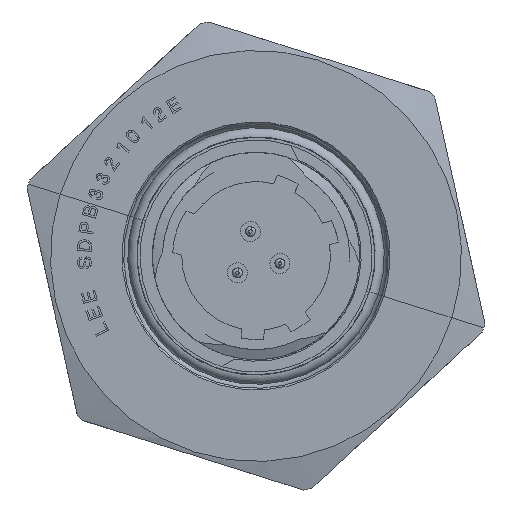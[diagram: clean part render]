
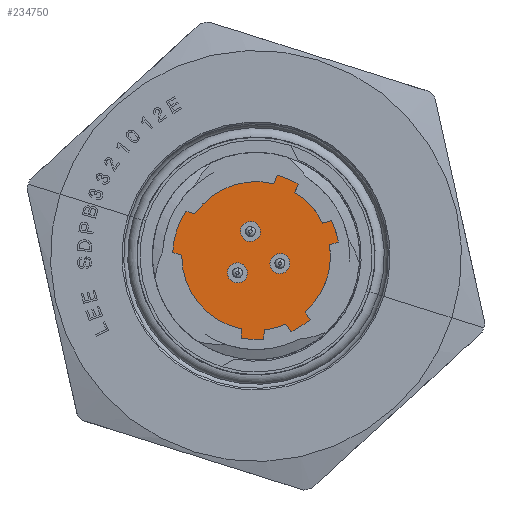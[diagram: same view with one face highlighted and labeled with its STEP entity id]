
A CAD part, left-side view. The second image highlights one B-rep face of the part: STEP entity #234750.
In plain terms, the highlighted planar face has unit normal (-1, 0, 0).
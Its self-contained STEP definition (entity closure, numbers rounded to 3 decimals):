
#215690=CARTESIAN_POINT('',(-42.03,0.965,
2.413));
#215700=VERTEX_POINT('',#215690);
#215730=CARTESIAN_POINT('',(-42.03,0.965,1.651));
#215740=DIRECTION('',(-1.,0.,0.));
#215750=DIRECTION('',(0.,0.,1.));
#215760=AXIS2_PLACEMENT_3D('',#215730,#215740,#215750);
#215770=CIRCLE('',#215760,0.762);
#215780=CARTESIAN_POINT('',(-42.03,0.965,
0.889));
#215790=VERTEX_POINT('',#215780);
#215800=EDGE_CURVE('',#215790,#215700,#215770,.T.);
#229680=CARTESIAN_POINT('',(-42.03,0.,
0.));
#229690=DIRECTION('',(1.,0.,0.));
#229700=DIRECTION('',(0.,0.,1.));
#229710=AXIS2_PLACEMENT_3D('',#229680,#229690,#229700);
#229720=CIRCLE('',#229710,5.652);
#229730=CARTESIAN_POINT('',(-42.03,-0.611,
-5.618));
#229740=VERTEX_POINT('',#229730);
#229750=CARTESIAN_POINT('',(-42.031,5.405,-1.651));
#229760=VERTEX_POINT('',#229750);
#229770=EDGE_CURVE('',#229740,#229760,#229720,.T.);
#230000=CARTESIAN_POINT('',(-42.03,0.374,
5.639));
#230010=VERTEX_POINT('',#230000);
#230040=CARTESIAN_POINT('',(-42.031,5.405,
1.651));
#230050=VERTEX_POINT('',#230040);
#230060=EDGE_CURVE('',#230050,#230010,#229720,.T.);
#230220=CARTESIAN_POINT('',(-42.029,-4.079,
3.911));
#230230=VERTEX_POINT('',#230220);
#230260=CARTESIAN_POINT('',(-42.03,-1.347,
5.489));
#230270=VERTEX_POINT('',#230260);
#230280=EDGE_CURVE('',#230270,#230230,#229720,.T.);
#230390=CARTESIAN_POINT('',(-42.029,-5.07,
2.496));
#230400=VERTEX_POINT('',#230390);
#230410=CARTESIAN_POINT('',(-42.029,-4.833,
-2.928));
#230420=VERTEX_POINT('',#230410);
#230430=EDGE_CURVE('',#230400,#230420,#229720,.T.);
#230610=CARTESIAN_POINT('',(-42.029,-3.723,
-4.252));
#230620=VERTEX_POINT('',#230610);
#230630=CARTESIAN_POINT('',(-42.03,-2.279,
-5.171));
#230640=VERTEX_POINT('',#230630);
#230650=EDGE_CURVE('',#230620,#230640,#229720,.T.);
#230920=CARTESIAN_POINT('',(-42.03,-0.791,
-6.288));
#230930=VERTEX_POINT('',#230920);
#230960=CARTESIAN_POINT('',(-42.03,0.,
0.));
#230970=DIRECTION('',(-1.,0.,0.));
#230980=DIRECTION('',(0.,0.,1.));
#230990=AXIS2_PLACEMENT_3D('',#230960,#230970,#230980);
#231000=CIRCLE('',#230990,6.337);
#231010=CARTESIAN_POINT('',(-42.03,-2.459,
-5.841));
#231020=VERTEX_POINT('',#231010);
#231030=EDGE_CURVE('',#230930,#231020,#231000,.T.);
#231210=CARTESIAN_POINT('',(-42.03,-0.611,
-5.618));
#231220=DIRECTION('',(0.,-0.259,
-0.966));
#231230=VECTOR('',#231220,1.);
#231240=LINE('',#231210,#231230);
#231250=EDGE_CURVE('',#229740,#230930,#231240,.T.);
#231380=CARTESIAN_POINT('',(-42.03,-2.279,
-5.171));
#231390=DIRECTION('',(0.,-0.259,
-0.966));
#231400=VECTOR('',#231390,1.);
#231410=LINE('',#231380,#231400);
#231420=EDGE_CURVE('',#230640,#231020,#231410,.T.);
#231550=CARTESIAN_POINT('',(-42.029,-3.723,
-4.252));
#231560=DIRECTION('',(0.,-0.766,
-0.643));
#231570=VECTOR('',#231560,1.);
#231580=LINE('',#231550,#231570);
#231590=CARTESIAN_POINT('',(-42.029,-4.254,
-4.697));
#231600=VERTEX_POINT('',#231590);
#231610=EDGE_CURVE('',#230620,#231600,#231580,.T.);
#231790=CARTESIAN_POINT('',(-42.03,0.,
0.));
#231800=DIRECTION('',(-1.,0.,0.));
#231810=DIRECTION('',(0.,0.,1.));
#231820=AXIS2_PLACEMENT_3D('',#231790,#231800,#231810);
#231830=CIRCLE('',#231820,6.337);
#231840=CARTESIAN_POINT('',(-42.029,-5.364,
-3.374));
#231850=VERTEX_POINT('',#231840);
#231860=EDGE_CURVE('',#231600,#231850,#231830,.T.);
#232040=CARTESIAN_POINT('',(-42.029,-4.833,
-2.928));
#232050=DIRECTION('',(0.,-0.766,
-0.643));
#232060=VECTOR('',#232050,1.);
#232070=LINE('',#232040,#232060);
#232080=EDGE_CURVE('',#230420,#231850,#232070,.T.);
#232210=CARTESIAN_POINT('',(-42.029,-5.07,
2.496));
#232220=DIRECTION('',(0.,-0.819,
0.574));
#232230=VECTOR('',#232220,1.);
#232240=LINE('',#232210,#232230);
#232250=CARTESIAN_POINT('',(-42.029,-5.638,
2.894));
#232260=VERTEX_POINT('',#232250);
#232270=EDGE_CURVE('',#230400,#232260,#232240,.T.);
#232450=CARTESIAN_POINT('',(-42.03,0.,
0.));
#232460=DIRECTION('',(-1.,0.,0.));
#232470=DIRECTION('',(0.,0.,1.));
#232480=AXIS2_PLACEMENT_3D('',#232450,#232460,#232470);
#232490=CIRCLE('',#232480,6.337);
#232500=CARTESIAN_POINT('',(-42.029,-4.647,
4.308));
#232510=VERTEX_POINT('',#232500);
#232520=EDGE_CURVE('',#232260,#232510,#232490,.T.);
#232700=CARTESIAN_POINT('',(-42.029,-4.079,
3.911));
#232710=DIRECTION('',(0.,-0.819,
0.574));
#232720=VECTOR('',#232710,1.);
#232730=LINE('',#232700,#232720);
#232740=EDGE_CURVE('',#230230,#232510,#232730,.T.);
#232870=CARTESIAN_POINT('',(-42.03,-1.347,
5.489));
#232880=DIRECTION('',(0.,-0.087,
0.996));
#232890=VECTOR('',#232880,1.);
#232900=LINE('',#232870,#232890);
#232910=CARTESIAN_POINT('',(-42.03,-1.407,
6.179));
#232920=VERTEX_POINT('',#232910);
#232930=EDGE_CURVE('',#230270,#232920,#232900,.T.);
#233110=CARTESIAN_POINT('',(-42.03,0.,
0.));
#233120=DIRECTION('',(-1.,0.,0.));
#233130=DIRECTION('',(0.,0.,1.));
#233140=AXIS2_PLACEMENT_3D('',#233110,#233120,#233130);
#233150=CIRCLE('',#233140,6.337);
#233160=CARTESIAN_POINT('',(-42.03,0.313,
6.33));
#233170=VERTEX_POINT('',#233160);
#233180=EDGE_CURVE('',#232920,#233170,#233150,.T.);
#233360=CARTESIAN_POINT('',(-42.03,0.374,
5.639));
#233370=DIRECTION('',(0.,-0.087,
0.996));
#233380=VECTOR('',#233370,1.);
#233390=LINE('',#233360,#233380);
#233400=EDGE_CURVE('',#230010,#233170,#233390,.T.);
#233530=CARTESIAN_POINT('',(-42.031,6.119,1.651));
#233540=DIRECTION('',(0.,-1.,0.));
#233550=VECTOR('',#233540,1.);
#233560=LINE('',#233530,#233550);
#233570=CARTESIAN_POINT('',(-42.031,6.119,
1.651));
#233580=VERTEX_POINT('',#233570);
#233590=EDGE_CURVE('',#233580,#230050,#233560,.T.);
#233770=CARTESIAN_POINT('',(-42.03,0.,
0.));
#233780=DIRECTION('',(-1.,0.,0.));
#233790=DIRECTION('',(0.,0.,1.));
#233800=AXIS2_PLACEMENT_3D('',#233770,#233780,#233790);
#233810=CIRCLE('',#233800,6.337);
#233820=CARTESIAN_POINT('',(-42.031,6.119,-1.651));
#233830=VERTEX_POINT('',#233820);
#233840=EDGE_CURVE('',#233580,#233830,#233810,.T.);
#234020=CARTESIAN_POINT('',(-42.031,6.119,-1.651));
#234030=DIRECTION('',(0.,-1.,0.));
#234040=VECTOR('',#234030,1.);
#234050=LINE('',#234020,#234040);
#234060=EDGE_CURVE('',#233830,#229760,#234050,.T.);
#234130=CARTESIAN_POINT('',(-42.03,0.,
2.826));
#234140=DIRECTION('',(1.,0.,-0.));
#234150=DIRECTION('',(0.,0.,1.));
#234160=AXIS2_PLACEMENT_3D('',#234130,#234140,#234150);
#234170=PLANE('',#234160);
#234180=CARTESIAN_POINT('',(-42.03,0.965,-1.651))
;
#234190=DIRECTION('',(-1.,0.,0.));
#234200=DIRECTION('',(0.,0.,1.));
#234210=AXIS2_PLACEMENT_3D('',#234180,#234190,#234200);
#234220=CIRCLE('',#234210,0.762);
#234230=CARTESIAN_POINT('',(-42.03,0.965,
-0.889));
#234240=VERTEX_POINT('',#234230);
#234250=CARTESIAN_POINT('',(-42.03,0.965,
-2.413));
#234260=VERTEX_POINT('',#234250);
#234270=EDGE_CURVE('',#234240,#234260,#234220,.T.);
#234280=ORIENTED_EDGE('',*,*,#234270,.F.);
#234290=EDGE_CURVE('',#234260,#234240,#234220,.T.);
#234300=ORIENTED_EDGE('',*,*,#234290,.F.);
#234310=EDGE_LOOP('',(#234300,#234280));
#234320=FACE_BOUND('',#234310,.T.);
#234330=EDGE_CURVE('',#215700,#215790,#215770,.T.);
#234340=ORIENTED_EDGE('',*,*,#234330,.F.);
#234350=ORIENTED_EDGE('',*,*,#215800,.F.);
#234360=EDGE_LOOP('',(#234350,#234340));
#234370=FACE_BOUND('',#234360,.T.);
#234380=CARTESIAN_POINT('',(-42.03,-1.905,
0.));
#234390=DIRECTION('',(-1.,0.,0.));
#234400=DIRECTION('',(0.,0.,1.));
#234410=AXIS2_PLACEMENT_3D('',#234380,#234390,#234400);
#234420=CIRCLE('',#234410,0.762);
#234430=CARTESIAN_POINT('',(-42.03,-1.905,
0.762));
#234440=VERTEX_POINT('',#234430);
#234450=CARTESIAN_POINT('',(-42.03,-1.905,
-0.762));
#234460=VERTEX_POINT('',#234450);
#234470=EDGE_CURVE('',#234440,#234460,#234420,.T.);
#234480=ORIENTED_EDGE('',*,*,#234470,.F.);
#234490=EDGE_CURVE('',#234460,#234440,#234420,.T.);
#234500=ORIENTED_EDGE('',*,*,#234490,.F.);
#234510=EDGE_LOOP('',(#234500,#234480));
#234520=FACE_BOUND('',#234510,.T.);
#234530=ORIENTED_EDGE('',*,*,#230280,.F.);
#234540=ORIENTED_EDGE('',*,*,#232740,.F.);
#234550=ORIENTED_EDGE('',*,*,#232520,.T.);
#234560=ORIENTED_EDGE('',*,*,#232270,.T.);
#234570=ORIENTED_EDGE('',*,*,#230430,.F.);
#234580=ORIENTED_EDGE('',*,*,#232080,.F.);
#234590=ORIENTED_EDGE('',*,*,#231860,.T.);
#234600=ORIENTED_EDGE('',*,*,#231610,.T.);
#234610=ORIENTED_EDGE('',*,*,#230650,.F.);
#234620=ORIENTED_EDGE('',*,*,#231420,.F.);
#234630=ORIENTED_EDGE('',*,*,#231030,.T.);
#234640=ORIENTED_EDGE('',*,*,#231250,.T.);
#234650=ORIENTED_EDGE('',*,*,#229770,.F.);
#234660=ORIENTED_EDGE('',*,*,#234060,.T.);
#234670=ORIENTED_EDGE('',*,*,#233840,.T.);
#234680=ORIENTED_EDGE('',*,*,#233590,.F.);
#234690=ORIENTED_EDGE('',*,*,#230060,.F.);
#234700=ORIENTED_EDGE('',*,*,#233400,.F.);
#234710=ORIENTED_EDGE('',*,*,#233180,.T.);
#234720=ORIENTED_EDGE('',*,*,#232930,.T.);
#234730=EDGE_LOOP('',(#234720,#234710,#234700,#234690,#234680,#234670,
#234660,#234650,#234640,#234630,#234620,#234610,#234600,#234590,#234580,
#234570,#234560,#234550,#234540,#234530));
#234740=FACE_OUTER_BOUND('',#234730,.T.);
#234750=ADVANCED_FACE('',(#234320,#234370,#234520,#234740),#234170,.F.);
